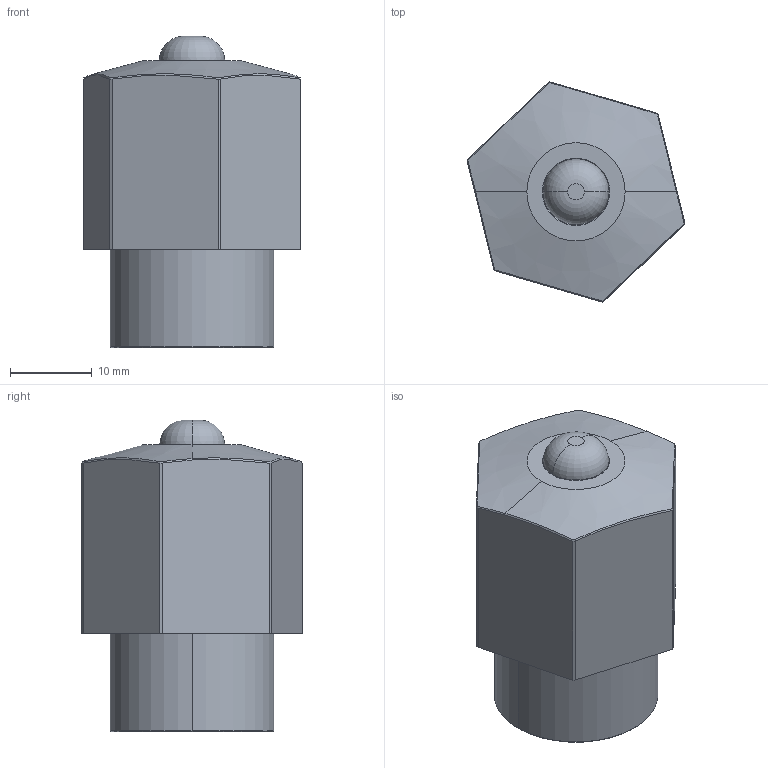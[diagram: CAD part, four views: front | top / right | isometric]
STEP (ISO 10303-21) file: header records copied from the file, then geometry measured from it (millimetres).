
FILE_DESCRIPTION (( 'STEP AP214' ), '1' );
FILE_NAME ('TO4C-M202.STEP', '2020-07-10T06:35:04', ( '' ), ( '' ), 'SwSTEP 2.0', 'SolidWorks 2019', '' );
FILE_SCHEMA (( 'AUTOMOTIVE_DESIGN' ));
Length unit declared in the file: millimetre
Products named in the file (3): TO4C-M202-PISTON; TO4C-M202; TO4C-M202-BODY
Assembly tree (2 placements, depth 2):
  TO4C-M202
    TO4C-M202-BODY
    TO4C-M202-PISTON
Bounding box: 26.48 x 26.86 x 38 mm (x, y, z)
Volume: 14925.8 mm3; surface area: 5169.1 mm2
Topology: 2 solids, 2 shells, 52 faces, 106 edges, 62 vertices
Faces by surface type: plane 26, cylinder 10, cone 8, bspline 6, torus 2
Entity records: 2386 total; most frequent: CARTESIAN_POINT 1215, DIRECTION 214, ORIENTED_EDGE 212, EDGE_CURVE 106, AXIS2_PLACEMENT_3D 83, VERTEX_POINT 62, EDGE_LOOP 56, FACE_OUTER_BOUND 52
